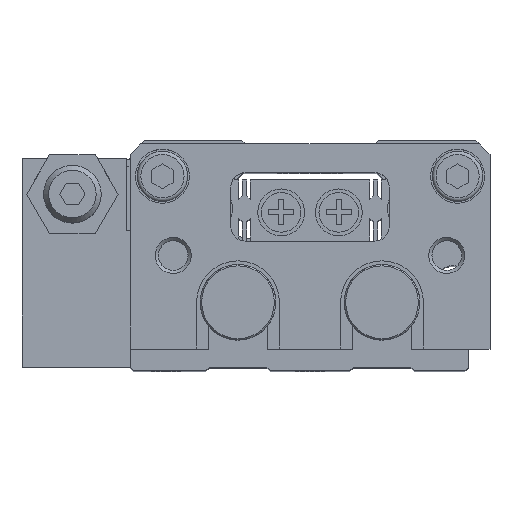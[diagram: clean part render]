
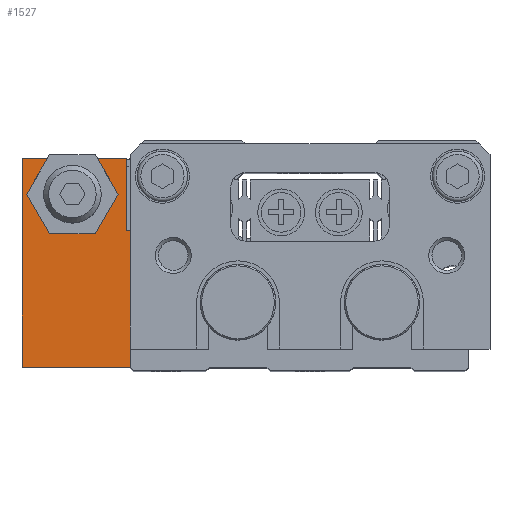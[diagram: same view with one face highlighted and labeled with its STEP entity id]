
A CAD part, top view. The second image highlights one B-rep face of the part: STEP entity #1527.
In plain terms, the highlighted planar face has unit normal (0, 0, 1).
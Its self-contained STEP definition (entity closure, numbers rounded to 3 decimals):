
#1527 = ADVANCED_FACE( '', ( #3323 ), #3324, .T. );
#3323 = FACE_OUTER_BOUND( '', #5273, .T. );
#3324 = PLANE( '', #5274 );
#5273 = EDGE_LOOP( '', ( #9317, #9318, #9319, #9320, #9321, #9322, #9323, #9324, #9325, #9326, #9327, #9328 ) );
#5274 = AXIS2_PLACEMENT_3D( '', #9329, #9330, #9331 );
#9317 = ORIENTED_EDGE( '', *, *, #12095, .T. );
#9318 = ORIENTED_EDGE( '', *, *, #10875, .F. );
#9319 = ORIENTED_EDGE( '', *, *, #11114, .F. );
#9320 = ORIENTED_EDGE( '', *, *, #11126, .F. );
#9321 = ORIENTED_EDGE( '', *, *, #11713, .F. );
#9322 = ORIENTED_EDGE( '', *, *, #12101, .F. );
#9323 = ORIENTED_EDGE( '', *, *, #12093, .T. );
#9324 = ORIENTED_EDGE( '', *, *, #11946, .T. );
#9325 = ORIENTED_EDGE( '', *, *, #11073, .T. );
#9326 = ORIENTED_EDGE( '', *, *, #11395, .T. );
#9327 = ORIENTED_EDGE( '', *, *, #11591, .T. );
#9328 = ORIENTED_EDGE( '', *, *, #10935, .T. );
#9329 = CARTESIAN_POINT( '', ( 0., 0., 4.75 ) );
#9330 = DIRECTION( '', ( 0., 0., 1. ) );
#9331 = DIRECTION( '', ( 1., 0., 0. ) );
#10875 = EDGE_CURVE( '', #12970, #12971, #12972, .T. );
#10935 = EDGE_CURVE( '', #13073, #13071, #13074, .T. );
#11073 = EDGE_CURVE( '', #13298, #13296, #13299, .T. );
#11114 = EDGE_CURVE( '', #13366, #12970, #13367, .T. );
#11126 = EDGE_CURVE( '', #13385, #13366, #13386, .T. );
#11395 = EDGE_CURVE( '', #13296, #13805, #13807, .T. );
#11591 = EDGE_CURVE( '', #13805, #13073, #14104, .T. );
#11713 = EDGE_CURVE( '', #14277, #13385, #14278, .T. );
#11946 = EDGE_CURVE( '', #14590, #13298, #14591, .T. );
#12093 = EDGE_CURVE( '', #14768, #14590, #14769, .T. );
#12095 = EDGE_CURVE( '', #13071, #12971, #14771, .T. );
#12101 = EDGE_CURVE( '', #14768, #14277, #14777, .T. );
#12970 = VERTEX_POINT( '', #15885 );
#12971 = VERTEX_POINT( '', #15886 );
#12972 = LINE( '', #15887, #15888 );
#13071 = VERTEX_POINT( '', #16017 );
#13073 = VERTEX_POINT( '', #16020 );
#13074 = LINE( '', #16021, #16022 );
#13296 = VERTEX_POINT( '', #16324 );
#13298 = VERTEX_POINT( '', #16327 );
#13299 = LINE( '', #16328, #16329 );
#13366 = VERTEX_POINT( '', #16423 );
#13367 = LINE( '', #16424, #16425 );
#13385 = VERTEX_POINT( '', #16450 );
#13386 = LINE( '', #16451, #16452 );
#13805 = VERTEX_POINT( '', #17046 );
#13807 = LINE( '', #17049, #17050 );
#14104 = LINE( '', #17457, #17458 );
#14277 = VERTEX_POINT( '', #17702 );
#14278 = LINE( '', #17703, #17704 );
#14590 = VERTEX_POINT( '', #18150 );
#14591 = LINE( '', #18151, #18152 );
#14768 = VERTEX_POINT( '', #18401 );
#14769 = LINE( '', #18402, #18403 );
#14771 = LINE( '', #18406, #18407 );
#14777 = LINE( '', #18414, #18415 );
#15885 = CARTESIAN_POINT( '', ( -13.351, 5., 4.75 ) );
#15886 = CARTESIAN_POINT( '', ( -10.464, 0., 4.75 ) );
#15887 = CARTESIAN_POINT( '', ( -13.351, 5., 4.75 ) );
#15888 = VECTOR( '', #19142, 1000. );
#16017 = CARTESIAN_POINT( '', ( -14.5, 0., 4.75 ) );
#16020 = CARTESIAN_POINT( '', ( -14.5, 10., 4.75 ) );
#16021 = CARTESIAN_POINT( '', ( -14.5, 10., 4.75 ) );
#16022 = VECTOR( '', #19213, 1000. );
#16324 = CARTESIAN_POINT( '', ( -16., 29., 4.75 ) );
#16327 = CARTESIAN_POINT( '', ( 0., 29., 4.75 ) );
#16328 = CARTESIAN_POINT( '', ( 0., 29., 4.75 ) );
#16329 = VECTOR( '', #19367, 1000. );
#16423 = CARTESIAN_POINT( '', ( -10.175, 10.5, 4.75 ) );
#16424 = CARTESIAN_POINT( '', ( -10.175, 10.5, 4.75 ) );
#16425 = VECTOR( '', #19407, 1000. );
#16450 = CARTESIAN_POINT( '', ( -3.825, 10.5, 4.75 ) );
#16451 = CARTESIAN_POINT( '', ( -3.825, 10.5, 4.75 ) );
#16452 = VECTOR( '', #19418, 1000. );
#17046 = CARTESIAN_POINT( '', ( -16., 10., 4.75 ) );
#17049 = CARTESIAN_POINT( '', ( -16., 29., 4.75 ) );
#17050 = VECTOR( '', #19688, 1000. );
#17457 = CARTESIAN_POINT( '', ( -16., 10., 4.75 ) );
#17458 = VECTOR( '', #19889, 1000. );
#17702 = CARTESIAN_POINT( '', ( -0.649, 5., 4.75 ) );
#17703 = CARTESIAN_POINT( '', ( -0.649, 5., 4.75 ) );
#17704 = VECTOR( '', #19997, 1000. );
#18150 = CARTESIAN_POINT( '', ( 0., 0., 4.75 ) );
#18151 = CARTESIAN_POINT( '', ( 0., 0., 4.75 ) );
#18152 = VECTOR( '', #20219, 1000. );
#18401 = CARTESIAN_POINT( '', ( -3.536, 0., 4.75 ) );
#18402 = CARTESIAN_POINT( '', ( -14.5, 0., 4.75 ) );
#18403 = VECTOR( '', #20325, 1000. );
#18406 = CARTESIAN_POINT( '', ( -14.5, 0., 4.75 ) );
#18407 = VECTOR( '', #20327, 1000. );
#18414 = CARTESIAN_POINT( '', ( -3.825, -0.5, 4.75 ) );
#18415 = VECTOR( '', #20329, 1000. );
#19142 = DIRECTION( '', ( 0.5, -0.866, 0. ) );
#19213 = DIRECTION( '', ( 0., -1., 0. ) );
#19367 = DIRECTION( '', ( -1., 0., 0. ) );
#19407 = DIRECTION( '', ( -0.5, -0.866, 0. ) );
#19418 = DIRECTION( '', ( -1., 0., 0. ) );
#19688 = DIRECTION( '', ( 0., -1., 0. ) );
#19889 = DIRECTION( '', ( 1., 0., 0. ) );
#19997 = DIRECTION( '', ( -0.5, 0.866, 0. ) );
#20219 = DIRECTION( '', ( 0., 1., 0. ) );
#20325 = DIRECTION( '', ( 1., 0., 0. ) );
#20327 = DIRECTION( '', ( 1., 0., 0. ) );
#20329 = DIRECTION( '', ( 0.5, 0.866, 0. ) );
